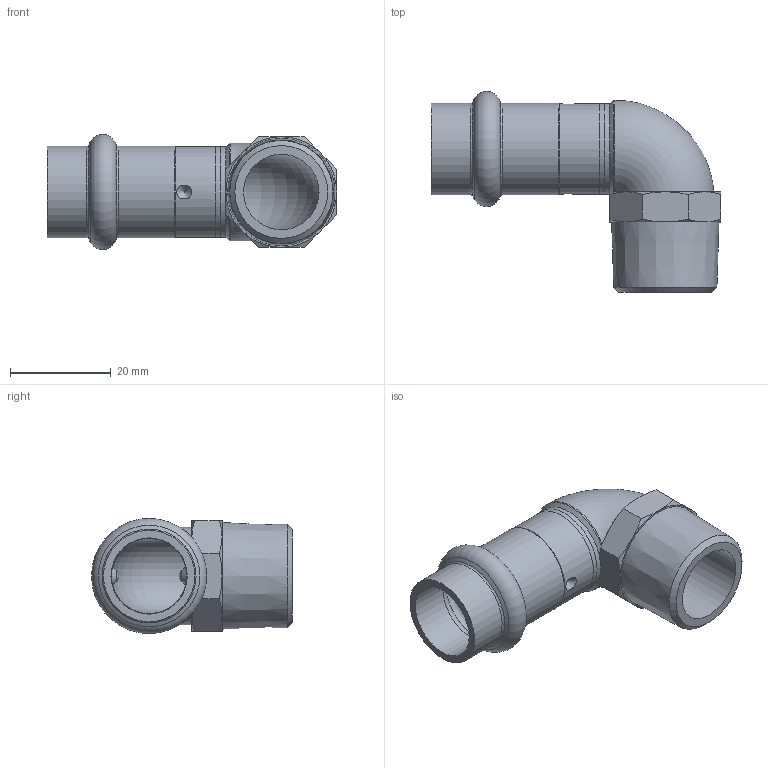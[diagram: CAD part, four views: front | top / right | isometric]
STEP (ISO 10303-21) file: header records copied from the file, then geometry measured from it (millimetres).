
FILE_DESCRIPTION((''),'2;1');
FILE_NAME('G:\Nirosan-Schmiedefeld\Technics\CAD\001 Serie 9.000\015\69092AG1512H(4).stp','2017-05-09T13:20:59',('herberg'),(''),'Autodesk Inventor 2009','Autodesk Inventor 2009','');
FILE_SCHEMA(('AUTOMOTIVE_DESIGN { 1 0 10303 214 1 1 1 1 }'));
Length unit declared in the file: millimetre
Products named in the file (3): 69092AG1512H(4); 69ATWAG1512P(0); 69HM1518P(0)
Assembly tree (2 placements, depth 2):
  69092AG1512H(4)
    69ATWAG1512P(0)
    69HM1518P(0)
Bounding box: 57.5 x 39.95 x 22.89 mm (x, y, z)
Volume: 8542.5 mm3; surface area: 8587.6 mm2
Topology: 2 solids, 2 shells, 65 faces, 151 edges, 90 vertices
Faces by surface type: cone 27, plane 18, cylinder 10, torus 4, bspline 4, sphere 2
Full cylindrical faces by diameter (mm): 15 x3, 15.15 x2, 18 x2, 18.15 x2
Entity records: 2195 total; most frequent: CARTESIAN_POINT 927, DIRECTION 248, ORIENTED_EDGE 224, AXIS2_PLACEMENT_3D 119, EDGE_CURVE 112, EDGE_LOOP 96, VERTEX_POINT 78, FACE_OUTER_BOUND 65
